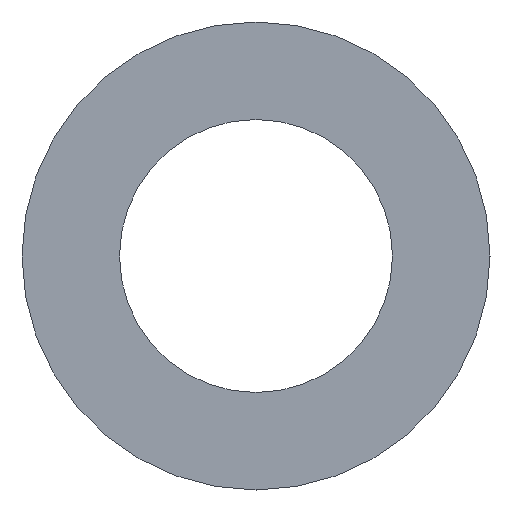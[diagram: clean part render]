
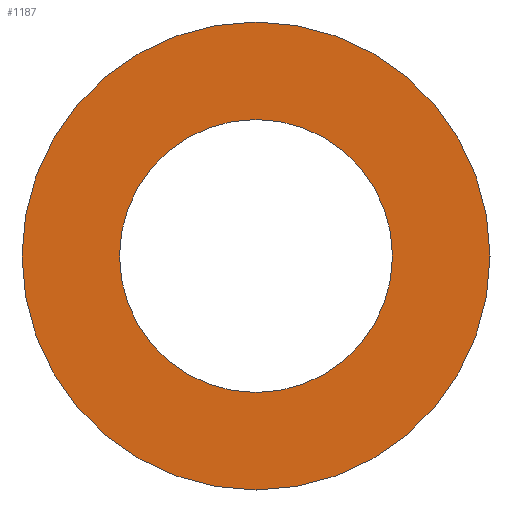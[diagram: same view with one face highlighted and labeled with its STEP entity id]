
A CAD part, front view. The second image highlights one B-rep face of the part: STEP entity #1187.
In plain terms, the highlighted planar face has unit normal (0, -1, 0).
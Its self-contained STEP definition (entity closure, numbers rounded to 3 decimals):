
#36 = ORIENTED_EDGE ( 'NONE', *, *, #3165, .F. ) ;
#167 = DIRECTION ( 'NONE',  ( 0., 0., -1. ) ) ;
#195 = CARTESIAN_POINT ( 'NONE',  ( 0., -14., -17.5 ) ) ;
#257 = DIRECTION ( 'NONE',  ( 0., 0., -1. ) ) ;
#431 = CARTESIAN_POINT ( 'NONE',  ( 0., -14., 30. ) ) ;
#457 = CARTESIAN_POINT ( 'NONE',  ( 0., -14., 17.5 ) ) ;
#549 = CIRCLE ( 'NONE', #3084, 30. ) ;
#576 = ORIENTED_EDGE ( 'NONE', *, *, #1277, .F. ) ;
#669 = CIRCLE ( 'NONE', #1773, 30. ) ;
#726 = CIRCLE ( 'NONE', #1141, 17.5 ) ;
#749 = CARTESIAN_POINT ( 'NONE',  ( 0., -14., 0. ) ) ;
#794 = ORIENTED_EDGE ( 'NONE', *, *, #3121, .T. ) ;
#858 = FACE_BOUND ( 'NONE', #1300, .T. ) ;
#992 = CARTESIAN_POINT ( 'NONE',  ( 0., -14., -30. ) ) ;
#1019 = DIRECTION ( 'NONE',  ( 0., -1., 0. ) ) ;
#1141 = AXIS2_PLACEMENT_3D ( 'NONE', #2525, #2232, #257 ) ;
#1187 = ADVANCED_FACE ( 'NONE', ( #858, #2424 ), #1293, .F. ) ;
#1219 = CARTESIAN_POINT ( 'NONE',  ( 0., -14., 0. ) ) ;
#1277 = EDGE_CURVE ( 'NONE', #1772, #2190, #726, .T. ) ;
#1287 = AXIS2_PLACEMENT_3D ( 'NONE', #1609, #3295, #3029 ) ;
#1293 = PLANE ( 'NONE',  #1287 ) ;
#1300 = EDGE_LOOP ( 'NONE', ( #576, #36 ) ) ;
#1604 = CARTESIAN_POINT ( 'NONE',  ( 0., -14., 0. ) ) ;
#1609 = CARTESIAN_POINT ( 'NONE',  ( 0., -14., 17.5 ) ) ;
#1772 = VERTEX_POINT ( 'NONE', #195 ) ;
#1773 = AXIS2_PLACEMENT_3D ( 'NONE', #1604, #1019, #167 ) ;
#2114 = EDGE_CURVE ( 'NONE', #3690, #3039, #549, .T. ) ;
#2190 = VERTEX_POINT ( 'NONE', #457 ) ;
#2195 = EDGE_LOOP ( 'NONE', ( #794, #2220 ) ) ;
#2220 = ORIENTED_EDGE ( 'NONE', *, *, #2114, .T. ) ;
#2232 = DIRECTION ( 'NONE',  ( 0., -1., 0. ) ) ;
#2388 = DIRECTION ( 'NONE',  ( 0., -1., 0. ) ) ;
#2424 = FACE_OUTER_BOUND ( 'NONE', #2195, .T. ) ;
#2474 = DIRECTION ( 'NONE',  ( 0., 0., -1. ) ) ;
#2525 = CARTESIAN_POINT ( 'NONE',  ( 0., -14., 0. ) ) ;
#2862 = CIRCLE ( 'NONE', #3330, 17.5 ) ;
#3029 = DIRECTION ( 'NONE',  ( 0., 0., 1. ) ) ;
#3039 = VERTEX_POINT ( 'NONE', #992 ) ;
#3062 = DIRECTION ( 'NONE',  ( 0., -1., 0. ) ) ;
#3084 = AXIS2_PLACEMENT_3D ( 'NONE', #1219, #2388, #3222 ) ;
#3121 = EDGE_CURVE ( 'NONE', #3039, #3690, #669, .T. ) ;
#3165 = EDGE_CURVE ( 'NONE', #2190, #1772, #2862, .T. ) ;
#3222 = DIRECTION ( 'NONE',  ( 0., 0., -1. ) ) ;
#3295 = DIRECTION ( 'NONE',  ( 0., 1., 0. ) ) ;
#3330 = AXIS2_PLACEMENT_3D ( 'NONE', #749, #3062, #2474 ) ;
#3690 = VERTEX_POINT ( 'NONE', #431 ) ;
